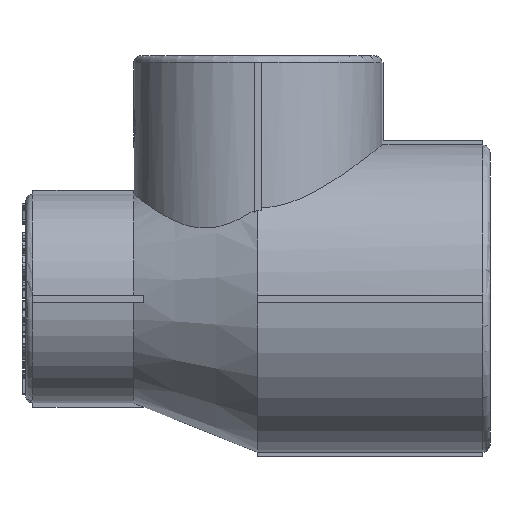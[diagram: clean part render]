
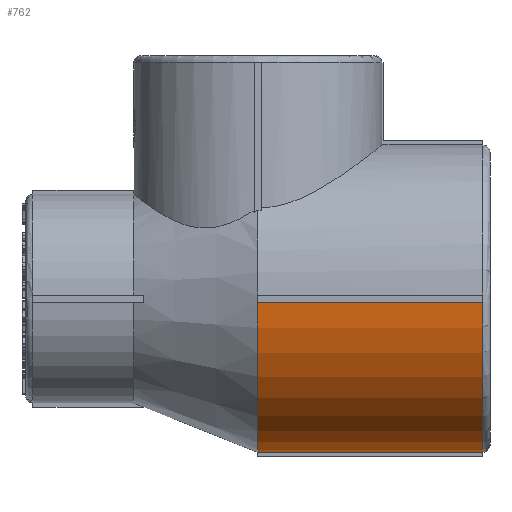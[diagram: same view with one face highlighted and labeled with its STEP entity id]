
A CAD part, left-side view. The second image highlights one B-rep face of the part: STEP entity #762.
In plain terms, the highlighted cylindrical face has radius 21.35 mm (diameter 42.7 mm), a partial arc.
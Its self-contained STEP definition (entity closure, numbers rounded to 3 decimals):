
#762=ADVANCED_FACE('',(#5890),#5892,.T.);
#5890=FACE_BOUND('',#5891,.T.);
#5891=EDGE_LOOP('',(#14505,#14506,#14507,#14508));
#5892=CYLINDRICAL_SURFACE('',#5893,21.35);
#5893=AXIS2_PLACEMENT_3D('',#5894,#5895,#5896);
#5894=CARTESIAN_POINT('',(0.,0.,0.));
#5895=DIRECTION('',(0.,-1.,0.));
#5896=DIRECTION('',(1.,0.,0.));
#14505=ORIENTED_EDGE('',*,*,#20209,.F.);
#14506=ORIENTED_EDGE('',*,*,#20210,.F.);
#14507=ORIENTED_EDGE('',*,*,#20211,.F.);
#14508=ORIENTED_EDGE('',*,*,#20170,.F.);
#20170=EDGE_CURVE('',#24900,#24902,#24903,.F.);
#20209=EDGE_CURVE('',#24965,#24900,#24966,.F.);
#20210=EDGE_CURVE('',#24967,#24965,#24968,.T.);
#20211=EDGE_CURVE('',#24902,#24967,#24969,.T.);
#24900=VERTEX_POINT('',#34809);
#24902=VERTEX_POINT('',#34814);
#24903=CIRCLE('',#34815,21.35);
#24965=VERTEX_POINT('',#35104);
#24966=LINE('',#35105,#35106);
#24967=VERTEX_POINT('',#35108);
#24968=CIRCLE('',#35109,21.35);
#24969=LINE('',#35113,#35114);
#34809=CARTESIAN_POINT('',(-0.5,0.,-21.344));
#34814=CARTESIAN_POINT('',(-21.344,0.,-0.5));
#34815=AXIS2_PLACEMENT_3D('',#34816,#34817,#34818);
#34816=CARTESIAN_POINT('',(0.,0.,0.));
#34817=DIRECTION('',(0.,-1.,0.));
#34818=DIRECTION('',(-1.,0.,-0.023));
#35104=CARTESIAN_POINT('',(-0.5,-31.25,-21.344));
#35105=CARTESIAN_POINT('',(-0.5,0.,-21.344));
#35106=VECTOR('',#35107,1.);
#35107=DIRECTION('',(0.,-1.,0.));
#35108=CARTESIAN_POINT('',(-21.344,-31.25,-0.5));
#35109=AXIS2_PLACEMENT_3D('',#35110,#35111,#35112);
#35110=CARTESIAN_POINT('',(0.,-31.25,0.));
#35111=DIRECTION('',(0.,-1.,0.));
#35112=DIRECTION('',(-1.,0.,-0.023));
#35113=CARTESIAN_POINT('',(-21.344,0.,-0.5));
#35114=VECTOR('',#35115,1.);
#35115=DIRECTION('',(0.,-1.,0.));
